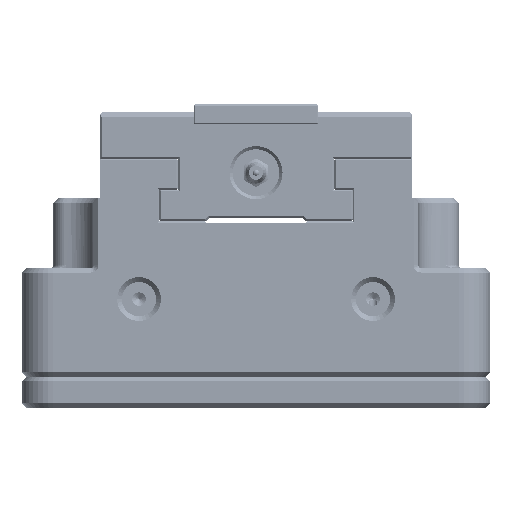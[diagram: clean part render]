
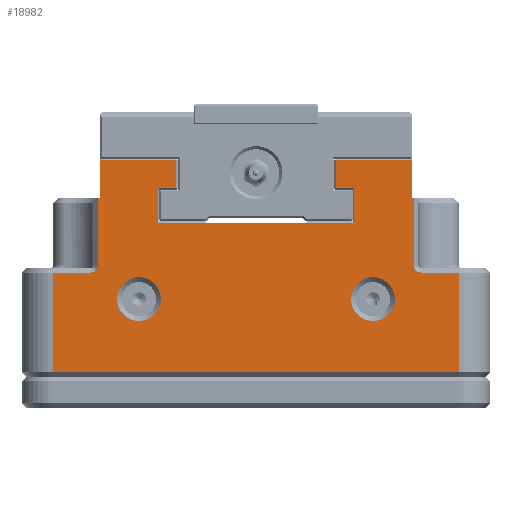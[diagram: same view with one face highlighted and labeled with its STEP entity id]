
A CAD part, front view. The second image highlights one B-rep face of the part: STEP entity #18982.
In plain terms, the highlighted planar face has unit normal (0, -1, 0).
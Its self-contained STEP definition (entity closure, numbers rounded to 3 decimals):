
#16199=FACE_BOUND('',#25429,.T.);
#16200=FACE_BOUND('',#25430,.T.);
#16201=FACE_BOUND('',#25431,.T.);
#16821=CIRCLE('',#64863,7.);
#16823=CIRCLE('',#64866,7.);
#16840=CIRCLE('',#64898,2.3);
#16845=CIRCLE('',#64908,2.3);
#18982=ADVANCED_FACE('',(#16199,#16200,#16201),#21390,.T.);
#21390=PLANE('',#65087);
#25429=EDGE_LOOP('',(#33433));
#25430=EDGE_LOOP('',(#33434));
#25431=EDGE_LOOP('',(#33435,#33436,#33437,#33438,#33439,#33440,#33441,#33442,
#33443,#33444,#33445,#33446,#33447,#33448,#33449,#33450,#33451,#33452,#33453,
#33454,#33455,#33456,#33457,#33458,#33459,#33460));
#33433=ORIENTED_EDGE('',*,*,#51455,.T.);
#33434=ORIENTED_EDGE('',*,*,#51453,.T.);
#33435=ORIENTED_EDGE('',*,*,#51255,.T.);
#33436=ORIENTED_EDGE('',*,*,#51233,.T.);
#33437=ORIENTED_EDGE('',*,*,#51235,.T.);
#33438=ORIENTED_EDGE('',*,*,#51341,.T.);
#33439=ORIENTED_EDGE('',*,*,#51756,.F.);
#33440=ORIENTED_EDGE('',*,*,#51344,.F.);
#33441=ORIENTED_EDGE('',*,*,#51229,.T.);
#33442=ORIENTED_EDGE('',*,*,#51224,.T.);
#33443=ORIENTED_EDGE('',*,*,#51257,.T.);
#33444=ORIENTED_EDGE('',*,*,#51333,.T.);
#33445=ORIENTED_EDGE('',*,*,#51356,.T.);
#33446=ORIENTED_EDGE('',*,*,#51696,.F.);
#33447=ORIENTED_EDGE('',*,*,#51757,.T.);
#33448=ORIENTED_EDGE('',*,*,#51409,.T.);
#33449=ORIENTED_EDGE('',*,*,#51501,.T.);
#33450=ORIENTED_EDGE('',*,*,#51504,.T.);
#33451=ORIENTED_EDGE('',*,*,#51512,.T.);
#33452=ORIENTED_EDGE('',*,*,#51477,.T.);
#33453=ORIENTED_EDGE('',*,*,#51421,.T.);
#33454=ORIENTED_EDGE('',*,*,#51490,.T.);
#33455=ORIENTED_EDGE('',*,*,#51488,.T.);
#33456=ORIENTED_EDGE('',*,*,#51731,.T.);
#33457=ORIENTED_EDGE('',*,*,#51745,.T.);
#33458=ORIENTED_EDGE('',*,*,#51755,.T.);
#33459=ORIENTED_EDGE('',*,*,#51374,.T.);
#33460=ORIENTED_EDGE('',*,*,#51329,.T.);
#45973=VERTEX_POINT('',#89346);
#45975=VERTEX_POINT('',#89349);
#45978=VERTEX_POINT('',#89356);
#45980=VERTEX_POINT('',#89362);
#45982=VERTEX_POINT('',#89366);
#45983=VERTEX_POINT('',#89370);
#45999=VERTEX_POINT('',#89412);
#46000=VERTEX_POINT('',#89416);
#46043=VERTEX_POINT('',#89556);
#46046=VERTEX_POINT('',#89564);
#46050=VERTEX_POINT('',#89577);
#46052=VERTEX_POINT('',#89584);
#46057=VERTEX_POINT('',#89605);
#46066=VERTEX_POINT('',#89640);
#46085=VERTEX_POINT('',#89707);
#46086=VERTEX_POINT('',#89708);
#46093=VERTEX_POINT('',#89731);
#46094=VERTEX_POINT('',#89732);
#46117=VERTEX_POINT('',#89800);
#46119=VERTEX_POINT('',#89805);
#46133=VERTEX_POINT('',#89848);
#46140=VERTEX_POINT('',#89871);
#46143=VERTEX_POINT('',#89876);
#46151=VERTEX_POINT('',#89902);
#46153=VERTEX_POINT('',#89908);
#46287=VERTEX_POINT('',#109116);
#46303=VERTEX_POINT('',#109183);
#46310=VERTEX_POINT('',#109209);
#51224=EDGE_CURVE('',#45975,#45973,#58027,.T.);
#51229=EDGE_CURVE('',#45978,#45975,#58032,.T.);
#51233=EDGE_CURVE('',#45980,#45982,#58036,.T.);
#51235=EDGE_CURVE('',#45982,#45983,#58038,.T.);
#51255=EDGE_CURVE('',#45999,#45980,#58058,.T.);
#51257=EDGE_CURVE('',#45973,#46000,#58060,.T.);
#51329=EDGE_CURVE('',#46043,#45999,#58122,.T.);
#51333=EDGE_CURVE('',#46000,#46046,#58126,.T.);
#51341=EDGE_CURVE('',#45983,#46050,#58134,.T.);
#51344=EDGE_CURVE('',#45978,#46052,#58137,.T.);
#51356=EDGE_CURVE('',#46046,#46057,#58149,.T.);
#51374=EDGE_CURVE('',#46066,#46043,#58167,.T.);
#51409=EDGE_CURVE('',#46085,#46086,#58194,.T.);
#51421=EDGE_CURVE('',#46093,#46094,#58204,.T.);
#51453=EDGE_CURVE('',#46117,#46117,#16821,.T.);
#51455=EDGE_CURVE('',#46119,#46119,#16823,.T.);
#51477=EDGE_CURVE('',#46133,#46093,#58228,.T.);
#51488=EDGE_CURVE('',#46140,#46143,#16840,.T.);
#51490=EDGE_CURVE('',#46094,#46140,#58237,.T.);
#51501=EDGE_CURVE('',#46086,#46151,#16845,.T.);
#51504=EDGE_CURVE('',#46151,#46153,#58245,.T.);
#51512=EDGE_CURVE('',#46153,#46133,#58251,.T.);
#51696=EDGE_CURVE('',#46287,#46057,#58286,.T.);
#51731=EDGE_CURVE('',#46143,#46303,#58314,.T.);
#51745=EDGE_CURVE('',#46303,#46310,#58325,.T.);
#51755=EDGE_CURVE('',#46310,#46066,#58333,.T.);
#51756=EDGE_CURVE('',#46052,#46050,#58334,.T.);
#51757=EDGE_CURVE('',#46287,#46085,#58335,.T.);
#58027=LINE('',#89348,#61519);
#58032=LINE('',#89358,#61524);
#58036=LINE('',#89367,#61528);
#58038=LINE('',#89372,#61530);
#58058=LINE('',#89411,#61550);
#58060=LINE('',#89415,#61552);
#58122=LINE('',#89555,#61614);
#58126=LINE('',#89563,#61618);
#58134=LINE('',#89579,#61626);
#58137=LINE('',#89583,#61629);
#58149=LINE('',#89604,#61641);
#58167=LINE('',#89639,#61659);
#58194=LINE('',#89706,#61686);
#58204=LINE('',#89730,#61696);
#58228=LINE('',#89855,#61720);
#58237=LINE('',#89880,#61729);
#58245=LINE('',#89909,#61737);
#58251=LINE('',#89922,#61743);
#58286=LINE('',#109115,#61778);
#58314=LINE('',#109182,#61806);
#58325=LINE('',#109210,#61817);
#58333=LINE('',#109228,#61825);
#58334=LINE('',#109230,#61826);
#58335=LINE('',#109232,#61827);
#61519=VECTOR('',#69330,1.);
#61524=VECTOR('',#69337,1.);
#61528=VECTOR('',#69343,1.);
#61530=VECTOR('',#69347,1.);
#61550=VECTOR('',#69377,1.);
#61552=VECTOR('',#69381,1.);
#61614=VECTOR('',#69513,1.);
#61618=VECTOR('',#69519,1.);
#61626=VECTOR('',#69531,1.);
#61629=VECTOR('',#69536,1.);
#61641=VECTOR('',#69556,1.);
#61659=VECTOR('',#69590,1.);
#61686=VECTOR('',#69659,1.);
#61696=VECTOR('',#69681,1.);
#61720=VECTOR('',#69821,1.);
#61729=VECTOR('',#69846,1.);
#61737=VECTOR('',#69876,1.);
#61743=VECTOR('',#69892,1.);
#61778=VECTOR('',#70183,1.);
#61806=VECTOR('',#70257,1.);
#61817=VECTOR('',#70286,1.);
#61825=VECTOR('',#70310,1.);
#61826=VECTOR('',#70313,1.);
#61827=VECTOR('',#70316,1.);
#64863=AXIS2_PLACEMENT_3D('',#89799,#69755,#69756);
#64866=AXIS2_PLACEMENT_3D('',#89804,#69761,#69762);
#64898=AXIS2_PLACEMENT_3D('',#89877,#69841,#69842);
#64908=AXIS2_PLACEMENT_3D('',#89903,#69869,#69870);
#65087=AXIS2_PLACEMENT_3D('',#109234,#70319,#70320);
#69330=DIRECTION('',(0.,0.,1.));
#69337=DIRECTION('',(-1.,0.,0.));
#69343=DIRECTION('',(0.,0.,-1.));
#69347=DIRECTION('',(-1.,0.,0.));
#69377=DIRECTION('',(1.,0.,0.));
#69381=DIRECTION('',(1.,0.,0.));
#69513=DIRECTION('',(0.,0.,-1.));
#69519=DIRECTION('',(0.,0.,1.));
#69531=DIRECTION('',(-0.707,0.,-0.707));
#69536=DIRECTION('',(0.707,0.,-0.707));
#69556=DIRECTION('',(-1.,0.,0.));
#69590=DIRECTION('',(-1.,0.,0.));
#69659=DIRECTION('',(0.,0.,-1.));
#69681=DIRECTION('',(0.,0.,1.));
#69755=DIRECTION('',(0.,1.,0.));
#69756=DIRECTION('',(0.,0.,-1.));
#69761=DIRECTION('',(0.,1.,0.));
#69762=DIRECTION('',(0.,0.,-1.));
#69821=DIRECTION('',(1.,0.,0.));
#69841=DIRECTION('',(0.,1.,0.));
#69842=DIRECTION('',(0.,0.,-1.));
#69846=DIRECTION('',(-1.,0.,0.));
#69869=DIRECTION('',(0.,1.,0.));
#69870=DIRECTION('',(0.,0.,-1.));
#69876=DIRECTION('',(-1.,0.,0.));
#69892=DIRECTION('',(0.,0.,-1.));
#70183=DIRECTION('',(0.,0.,1.));
#70257=DIRECTION('',(0.,0.,1.));
#70286=DIRECTION('',(-1.,0.,0.));
#70310=DIRECTION('',(0.,0.,1.));
#70313=DIRECTION('',(1.,0.,0.));
#70316=DIRECTION('',(-1.,0.,0.));
#70319=DIRECTION('',(0.,-1.,0.));
#70320=DIRECTION('',(0.,0.,-1.));
#89346=CARTESIAN_POINT('',(-31.5,0.,45.5));
#89348=CARTESIAN_POINT('',(-31.5,0.,45.5));
#89349=CARTESIAN_POINT('',(-31.5,0.,34.5));
#89356=CARTESIAN_POINT('',(-15.985,0.,34.5));
#89358=CARTESIAN_POINT('',(-31.,0.,34.5));
#89362=CARTESIAN_POINT('',(31.5,0.,45.5));
#89366=CARTESIAN_POINT('',(31.5,0.,34.5));
#89367=CARTESIAN_POINT('',(31.5,0.,35.));
#89370=CARTESIAN_POINT('',(16.015,0.,34.5));
#89372=CARTESIAN_POINT('',(16.515,0.,34.5));
#89411=CARTESIAN_POINT('',(-37.5,0.,45.5));
#89412=CARTESIAN_POINT('',(25.5,0.,45.5));
#89415=CARTESIAN_POINT('',(-37.5,0.,45.5));
#89416=CARTESIAN_POINT('',(-25.5,0.,45.5));
#89555=CARTESIAN_POINT('',(25.5,0.,45.));
#89556=CARTESIAN_POINT('',(25.5,0.,54.5));
#89563=CARTESIAN_POINT('',(-25.5,0.,54.5));
#89564=CARTESIAN_POINT('',(-25.5,0.,54.5));
#89577=CARTESIAN_POINT('',(15.965,0.,34.45));
#89579=CARTESIAN_POINT('',(16.515,0.,35.));
#89583=CARTESIAN_POINT('',(-14.443,0.,32.957));
#89584=CARTESIAN_POINT('',(-15.935,0.,34.45));
#89604=CARTESIAN_POINT('',(0.,0.,54.5));
#89605=CARTESIAN_POINT('',(-50.,0.,54.5));
#89639=CARTESIAN_POINT('',(0.,0.,54.5));
#89640=CARTESIAN_POINT('',(50.,0.,54.5));
#89706=CARTESIAN_POINT('',(-50.5,0.,9.9));
#89707=CARTESIAN_POINT('',(-50.5,0.,42.3));
#89708=CARTESIAN_POINT('',(-50.5,0.,20.8));
#89730=CARTESIAN_POINT('',(65.,0.,18.5));
#89731=CARTESIAN_POINT('',(65.,0.,-13.415));
#89732=CARTESIAN_POINT('',(65.,0.,18.5));
#89799=CARTESIAN_POINT('',(-37.5,0.,10.));
#89800=CARTESIAN_POINT('',(-37.5,0.,3.));
#89804=CARTESIAN_POINT('',(37.5,0.,10.));
#89805=CARTESIAN_POINT('',(37.5,0.,3.));
#89848=CARTESIAN_POINT('',(-65.,0.,-13.415));
#89855=CARTESIAN_POINT('',(65.,0.,-13.415));
#89871=CARTESIAN_POINT('',(52.8,0.,18.5));
#89876=CARTESIAN_POINT('',(50.5,0.,20.8));
#89877=CARTESIAN_POINT('',(52.8,0.,20.8));
#89880=CARTESIAN_POINT('',(53.3,0.,18.5));
#89902=CARTESIAN_POINT('',(-52.8,0.,18.5));
#89903=CARTESIAN_POINT('',(-52.8,0.,20.8));
#89908=CARTESIAN_POINT('',(-65.,0.,18.5));
#89909=CARTESIAN_POINT('',(-65.,0.,18.5));
#89922=CARTESIAN_POINT('',(-65.,0.,-13.415));
#109115=CARTESIAN_POINT('',(-50.,0.,9.9));
#109116=CARTESIAN_POINT('',(-50.,0.,42.3));
#109182=CARTESIAN_POINT('',(50.5,0.,9.9));
#109183=CARTESIAN_POINT('',(50.5,0.,42.3));
#109209=CARTESIAN_POINT('',(50.,0.,42.3));
#109210=CARTESIAN_POINT('',(-197.451,0.,42.3));
#109228=CARTESIAN_POINT('',(50.,0.,42.5));
#109230=CARTESIAN_POINT('',(-37.5,0.,34.45));
#109232=CARTESIAN_POINT('',(197.55,0.,42.3));
#109234=CARTESIAN_POINT('',(-37.5,0.,9.9));
